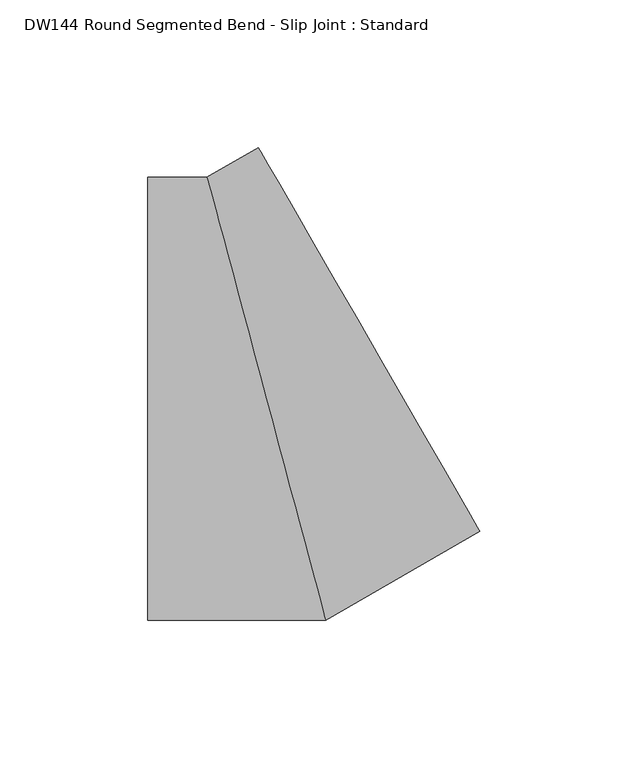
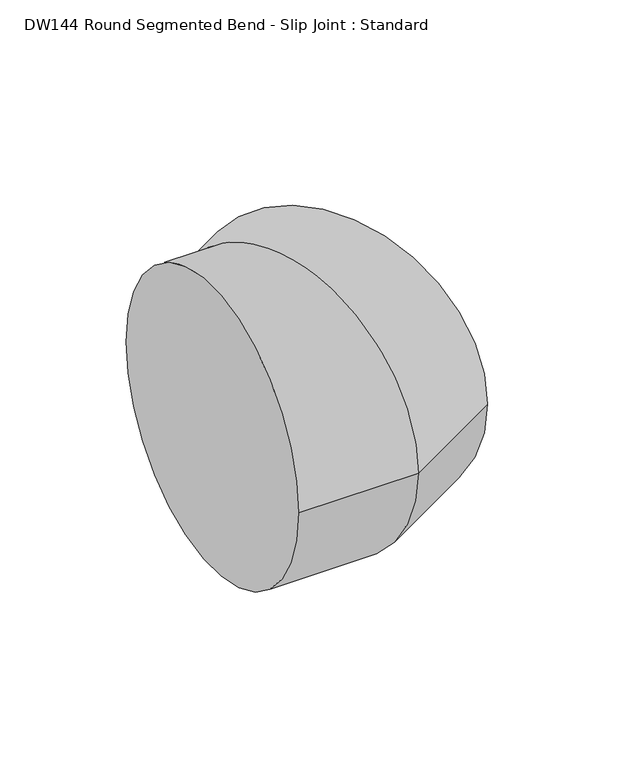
"""IFC4 building model written with IfcOpenShell, lengths in millimetres: duct fitting geometry, DW144 Round Segmented Bend - Slip Joint : Standard."""

from ifc_helpers import new_model, si_unit, frame, origin, place, context, project, spatial, circle_curve, ellipse_curve, source, transform, mapped, element, save
from ifc_brep_helpers import plane_surface, cylinder_surface, advanced_brep


def dw144_round_segmented_bend_slip_joint_standard_edce91b7(model_context):
    return source(origin(), model_context, "Body", "AdvancedBrep", [
        advanced_brep(
        [(-40.1924485, -75.0, 0.0), (-40.1924485, 75.0, 0.0), (20.0962242, -75.0, 0.0), (-20.0962242, 75.0, 0.0), (72.3077203, -44.8556184, 0.0), (-2.6923922, 85.0481272, 0.0)],
        [
            (0, 1, circle_curve(frame((-40.1924485, 0.0, 0.0), z_axis=(-1.0, 0.0, 0.0), x_axis=(0.0, 1.0, 0.0)), 75.0)),
            (1, 0, circle_curve(frame((-40.1924485, 0.0, 0.0), z_axis=(-1.0, 0.0, 0.0), x_axis=(0.0, 1.0, 0.0)), 75.0)),
            (0, 2),
            (2, 3, ellipse_curve(frame((0.0, 0.0, 0.0), z_axis=(-0.9659257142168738, -0.2588194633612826, 0.0), x_axis=(-0.25881946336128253, 0.9659257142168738, 0.0)), 77.6457225, 75.0)),
            (3, 1),
            (3, 2, ellipse_curve(frame((0.0, 0.0, 0.0), z_axis=(-0.9659257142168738, -0.2588194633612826, 0.0), x_axis=(-0.25881946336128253, 0.9659257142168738, 0.0)), 77.6457225, 75.0)),
            (2, 4),
            (4, 5, circle_curve(frame((34.807664, 20.0962544, 0.0), z_axis=(-0.8660249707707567, -0.5000007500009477, 0.0), x_axis=(-0.5000007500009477, 0.8660249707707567, 0.0)), 75.0)),
            (5, 3),
            (5, 4, circle_curve(frame((34.807664, 20.0962544, 0.0), z_axis=(-0.8660249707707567, -0.5000007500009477, 0.0), x_axis=(-0.5000007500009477, 0.8660249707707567, 0.0)), 75.0)),
        ],
        [
            plane_surface(frame((-40.1924485, 0.0, 0.0), z_axis=(-1.0, 0.0, 0.0), x_axis=(0.0, 0.0, 1.0))),
            cylinder_surface(frame((-40.1924485, 0.0, 0.0), z_axis=(-1.0, 0.0, 0.0), x_axis=(0.0, 1.0, 0.0)), 75.0),
            cylinder_surface(frame((0.0, 0.0, 0.0), z_axis=(-0.8660249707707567, -0.5000007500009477, 0.0), x_axis=(-0.5000007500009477, 0.8660249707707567, 0.0)), 75.0),
            plane_surface(frame((34.807664, 20.0962544, 0.0), z_axis=(0.8660249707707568, 0.5000007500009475, 0.0), x_axis=(0.0, 0.0, 1.0))),
        ],
        [
            (0, [[1, 2]]),
            (1, [[-1, 3, 4, 5]]),
            (1, [[-2, -5, 6, -3]]),
            (2, [[-4, 7, 8, 9]]),
            (2, [[-6, -9, 10, -7]]),
            (3, [[-10, -8]]),
        ],
    ),
    ])


if __name__ == "__main__":
    model = new_model("IFC4")
    model_context = context("Model", 3, world=origin())
    ifc_project = project(units=[si_unit("LENGTHUNIT", "METRE", prefix="MILLI")], contexts=[model_context])
    site = spatial("IfcSite", under=ifc_project)
    building = spatial("IfcBuilding", under=site)
    placement = place(None, origin())
    dw144_round_segmented_bend_slip_joint_standard_shape = dw144_round_segmented_bend_slip_joint_standard_edce91b7(model_context)
    element("IfcDuctFitting", 1, ObjectType="DW144 Round Segmented Bend - Slip Joint : Standard", at=placement, inside=building, context=model_context, shape_type="MappedRepresentation", body=[
        mapped(dw144_round_segmented_bend_slip_joint_standard_shape, transform((0.0, 0.0, 0.0), x_axis=(1.0, 0.0, 0.0), y_axis=(0.0, 1.0, 0.0), z_axis=(0.0, 0.0, 1.0))),
    ])
    save(model, "model.ifc")
